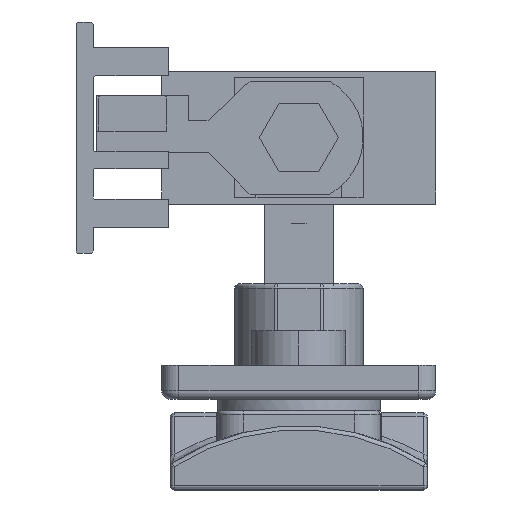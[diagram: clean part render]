
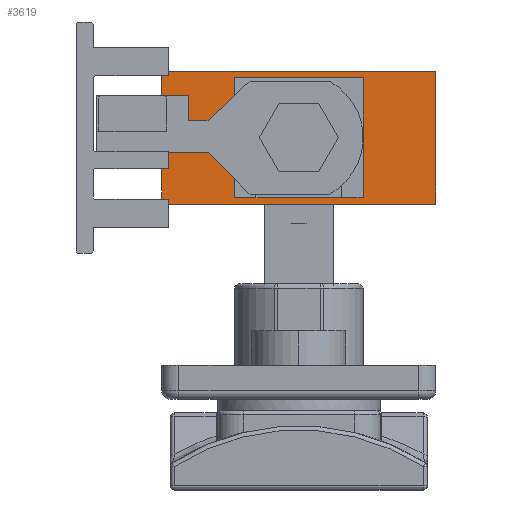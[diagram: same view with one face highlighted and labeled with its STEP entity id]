
A CAD part, front view. The second image highlights one B-rep face of the part: STEP entity #3619.
In plain terms, the highlighted planar face has unit normal (0, -1, 0).
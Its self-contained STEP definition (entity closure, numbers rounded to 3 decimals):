
#236 = VERTEX_POINT ( 'NONE', #4448 ) ;
#527 = ORIENTED_EDGE ( 'NONE', *, *, #5943, .F. ) ;
#711 = VECTOR ( 'NONE', #14047, 1000. ) ;
#2083 = FACE_BOUND ( 'NONE', #3944, .T. ) ;
#2262 = VERTEX_POINT ( 'NONE', #9704 ) ;
#2391 = LINE ( 'NONE', #7229, #18830 ) ;
#2400 = VERTEX_POINT ( 'NONE', #2993 ) ;
#2457 = DIRECTION ( 'NONE',  ( 0., 0., -1. ) ) ;
#2734 = VECTOR ( 'NONE', #8016, 1000. ) ;
#2993 = CARTESIAN_POINT ( 'NONE',  ( 7., -72.75, -6.25 ) ) ;
#3016 = CARTESIAN_POINT ( 'NONE',  ( -16., -72.75, 7.75 ) ) ;
#3348 = CARTESIAN_POINT ( 'NONE',  ( -7., -72.75, -6.25 ) ) ;
#3619 = ADVANCED_FACE ( 'NONE', ( #2083, #13978 ), #15540, .F. ) ;
#3840 = DIRECTION ( 'NONE',  ( 0., 0., -1. ) ) ;
#3944 = EDGE_LOOP ( 'NONE', ( #527, #13558, #15202, #5016 ) ) ;
#4181 = ORIENTED_EDGE ( 'NONE', *, *, #13894, .T. ) ;
#4448 = CARTESIAN_POINT ( 'NONE',  ( -7., -72.75, 6.25 ) ) ;
#4583 = LINE ( 'NONE', #6059, #6719 ) ;
#5016 = ORIENTED_EDGE ( 'NONE', *, *, #12846, .F. ) ;
#5106 = LINE ( 'NONE', #3016, #2734 ) ;
#5202 = VECTOR ( 'NONE', #14080, 1000. ) ;
#5547 = CARTESIAN_POINT ( 'NONE',  ( -7., -72.75, -6.25 ) ) ;
#5943 = EDGE_CURVE ( 'NONE', #236, #14680, #7011, .T. ) ;
#6020 = EDGE_CURVE ( 'NONE', #17584, #14808, #14339, .T. ) ;
#6059 = CARTESIAN_POINT ( 'NONE',  ( -7., -72.75, -6.25 ) ) ;
#6385 = ORIENTED_EDGE ( 'NONE', *, *, #15188, .T. ) ;
#6649 = CARTESIAN_POINT ( 'NONE',  ( 16., -72.75, 7.75 ) ) ;
#6719 = VECTOR ( 'NONE', #12035, 1000. ) ;
#7011 = LINE ( 'NONE', #5547, #15955 ) ;
#7063 = EDGE_CURVE ( 'NONE', #15002, #236, #12105, .T. ) ;
#7229 = CARTESIAN_POINT ( 'NONE',  ( 7., -72.75, 6.25 ) ) ;
#7667 = CARTESIAN_POINT ( 'NONE',  ( -16., -72.75, 7.75 ) ) ;
#8016 = DIRECTION ( 'NONE',  ( 0., 0., -1. ) ) ;
#8062 = DIRECTION ( 'NONE',  ( 1., 0., 0. ) ) ;
#9108 = DIRECTION ( 'NONE',  ( 0., 0., 1. ) ) ;
#9229 = CARTESIAN_POINT ( 'NONE',  ( 16., -72.75, -7.75 ) ) ;
#9601 = EDGE_CURVE ( 'NONE', #2400, #15002, #2391, .T. ) ;
#9704 = CARTESIAN_POINT ( 'NONE',  ( -16., -72.75, -7.75 ) ) ;
#9751 = CARTESIAN_POINT ( 'NONE',  ( 16., -72.75, 7.75 ) ) ;
#10554 = CARTESIAN_POINT ( 'NONE',  ( 7., -72.75, 6.25 ) ) ;
#10697 = ORIENTED_EDGE ( 'NONE', *, *, #19157, .F. ) ;
#10743 = VERTEX_POINT ( 'NONE', #9229 ) ;
#11213 = CARTESIAN_POINT ( 'NONE',  ( -16., -72.75, 7.75 ) ) ;
#11904 = VECTOR ( 'NONE', #8062, 1000. ) ;
#12035 = DIRECTION ( 'NONE',  ( 1., 0., 0. ) ) ;
#12105 = LINE ( 'NONE', #18084, #711 ) ;
#12553 = AXIS2_PLACEMENT_3D ( 'NONE', #15642, #18859, #9108 ) ;
#12846 = EDGE_CURVE ( 'NONE', #14680, #2400, #4583, .T. ) ;
#13079 = VECTOR ( 'NONE', #3840, 1000. ) ;
#13558 = ORIENTED_EDGE ( 'NONE', *, *, #7063, .F. ) ;
#13894 = EDGE_CURVE ( 'NONE', #17584, #2262, #5106, .T. ) ;
#13978 = FACE_OUTER_BOUND ( 'NONE', #14742, .T. ) ;
#14047 = DIRECTION ( 'NONE',  ( -1., 0., 0. ) ) ;
#14080 = DIRECTION ( 'NONE',  ( 1., 0., 0. ) ) ;
#14176 = CARTESIAN_POINT ( 'NONE',  ( -16., -72.75, -7.75 ) ) ;
#14339 = LINE ( 'NONE', #11213, #11904 ) ;
#14578 = ORIENTED_EDGE ( 'NONE', *, *, #6020, .F. ) ;
#14680 = VERTEX_POINT ( 'NONE', #3348 ) ;
#14742 = EDGE_LOOP ( 'NONE', ( #6385, #10697, #14578, #4181 ) ) ;
#14808 = VERTEX_POINT ( 'NONE', #9751 ) ;
#15002 = VERTEX_POINT ( 'NONE', #10554 ) ;
#15188 = EDGE_CURVE ( 'NONE', #2262, #10743, #15535, .T. ) ;
#15202 = ORIENTED_EDGE ( 'NONE', *, *, #9601, .F. ) ;
#15535 = LINE ( 'NONE', #14176, #5202 ) ;
#15540 = PLANE ( 'NONE',  #12553 ) ;
#15642 = CARTESIAN_POINT ( 'NONE',  ( -16., -72.75, 7.75 ) ) ;
#15955 = VECTOR ( 'NONE', #2457, 1000. ) ;
#17584 = VERTEX_POINT ( 'NONE', #7667 ) ;
#18084 = CARTESIAN_POINT ( 'NONE',  ( 7., -72.75, 6.25 ) ) ;
#18593 = LINE ( 'NONE', #6649, #13079 ) ;
#18830 = VECTOR ( 'NONE', #19177, 1000. ) ;
#18859 = DIRECTION ( 'NONE',  ( 0., 1., 0. ) ) ;
#19157 = EDGE_CURVE ( 'NONE', #14808, #10743, #18593, .T. ) ;
#19177 = DIRECTION ( 'NONE',  ( 0., 0., 1. ) ) ;
